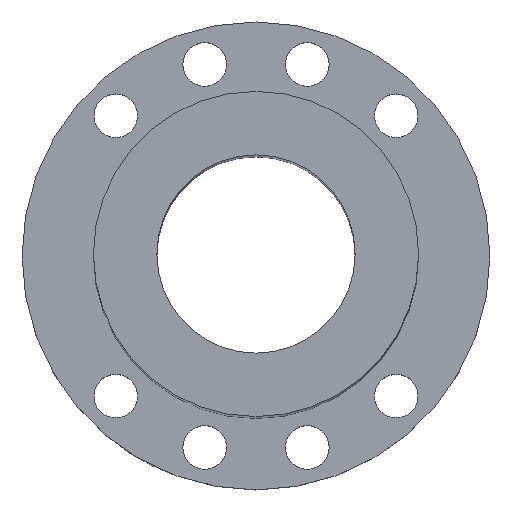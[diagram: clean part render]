
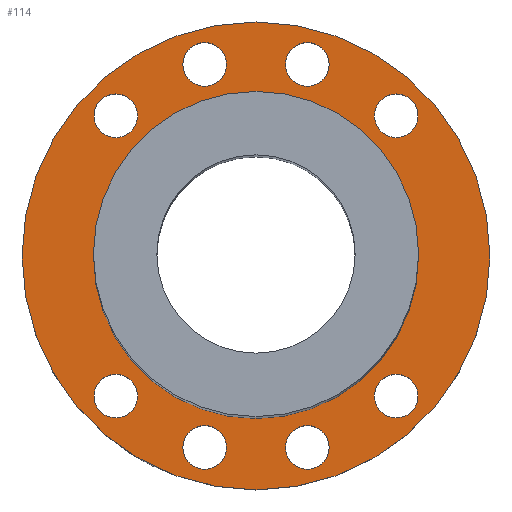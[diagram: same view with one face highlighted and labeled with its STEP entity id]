
A CAD part, top view. The second image highlights one B-rep face of the part: STEP entity #114.
In plain terms, the highlighted planar face has unit normal (0, 0, 1).
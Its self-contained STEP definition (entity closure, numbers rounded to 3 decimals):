
#99=PLANE('',#401);
#114=ADVANCED_FACE('',(#169,#170,#171,#172,#173,#174,#175,#176,#177,#178),
#99,.T.);
#169=FACE_BOUND('',#221,.T.);
#170=FACE_BOUND('',#222,.T.);
#171=FACE_BOUND('',#223,.T.);
#172=FACE_BOUND('',#224,.T.);
#173=FACE_BOUND('',#225,.T.);
#174=FACE_BOUND('',#226,.T.);
#175=FACE_BOUND('',#227,.T.);
#176=FACE_BOUND('',#228,.T.);
#177=FACE_BOUND('',#229,.T.);
#178=FACE_BOUND('',#230,.T.);
#221=EDGE_LOOP('',(#273));
#222=EDGE_LOOP('',(#274));
#223=EDGE_LOOP('',(#275));
#224=EDGE_LOOP('',(#276));
#225=EDGE_LOOP('',(#277));
#226=EDGE_LOOP('',(#278));
#227=EDGE_LOOP('',(#279));
#228=EDGE_LOOP('',(#280));
#229=EDGE_LOOP('',(#281));
#230=EDGE_LOOP('',(#282));
#273=ORIENTED_EDGE('',*,*,#316,.T.);
#274=ORIENTED_EDGE('',*,*,#337,.T.);
#275=ORIENTED_EDGE('',*,*,#336,.T.);
#276=ORIENTED_EDGE('',*,*,#335,.F.);
#277=ORIENTED_EDGE('',*,*,#318,.T.);
#278=ORIENTED_EDGE('',*,*,#334,.F.);
#279=ORIENTED_EDGE('',*,*,#333,.F.);
#280=ORIENTED_EDGE('',*,*,#332,.F.);
#281=ORIENTED_EDGE('',*,*,#331,.T.);
#282=ORIENTED_EDGE('',*,*,#338,.T.);
#290=VERTEX_POINT('',#495);
#292=VERTEX_POINT('',#557);
#305=VERTEX_POINT('',#644);
#306=VERTEX_POINT('',#647);
#307=VERTEX_POINT('',#650);
#308=VERTEX_POINT('',#653);
#309=VERTEX_POINT('',#656);
#310=VERTEX_POINT('',#659);
#311=VERTEX_POINT('',#662);
#312=VERTEX_POINT('',#665);
#316=EDGE_CURVE('',#290,#290,#342,.T.);
#318=EDGE_CURVE('',#292,#292,#343,.T.);
#331=EDGE_CURVE('',#305,#305,#355,.T.);
#332=EDGE_CURVE('',#306,#306,#356,.T.);
#333=EDGE_CURVE('',#307,#307,#357,.T.);
#334=EDGE_CURVE('',#308,#308,#358,.T.);
#335=EDGE_CURVE('',#309,#309,#359,.T.);
#336=EDGE_CURVE('',#310,#310,#360,.T.);
#337=EDGE_CURVE('',#311,#311,#361,.T.);
#338=EDGE_CURVE('',#312,#312,#362,.T.);
#342=CIRCLE('',#367,59.);
#343=CIRCLE('',#369,41.);
#355=CIRCLE('',#385,5.5);
#356=CIRCLE('',#387,5.5);
#357=CIRCLE('',#389,5.5);
#358=CIRCLE('',#391,5.5);
#359=CIRCLE('',#393,5.5);
#360=CIRCLE('',#395,5.5);
#361=CIRCLE('',#397,5.5);
#362=CIRCLE('',#399,5.5);
#367=AXIS2_PLACEMENT_3D('',#494,#411,#412);
#369=AXIS2_PLACEMENT_3D('',#556,#415,#416);
#385=AXIS2_PLACEMENT_3D('',#643,#447,#448);
#387=AXIS2_PLACEMENT_3D('',#646,#451,#452);
#389=AXIS2_PLACEMENT_3D('',#649,#455,#456);
#391=AXIS2_PLACEMENT_3D('',#652,#459,#460);
#393=AXIS2_PLACEMENT_3D('',#655,#463,#464);
#395=AXIS2_PLACEMENT_3D('',#658,#467,#468);
#397=AXIS2_PLACEMENT_3D('',#661,#471,#472);
#399=AXIS2_PLACEMENT_3D('',#664,#475,#476);
#401=AXIS2_PLACEMENT_3D('',#667,#479,#480);
#411=DIRECTION('',(0.,0.,1.));
#412=DIRECTION('',(1.,0.,0.));
#415=DIRECTION('',(0.,0.,-1.));
#416=DIRECTION('',(1.,0.,0.));
#447=DIRECTION('',(0.,0.,-1.));
#448=DIRECTION('',(1.,0.,0.));
#451=DIRECTION('',(0.,0.,1.));
#452=DIRECTION('',(1.,0.,0.));
#455=DIRECTION('',(0.,0.,1.));
#456=DIRECTION('',(-1.,0.,0.));
#459=DIRECTION('',(0.,0.,1.));
#460=DIRECTION('',(-1.,0.,0.));
#463=DIRECTION('',(0.,0.,1.));
#464=DIRECTION('',(1.,0.,0.));
#467=DIRECTION('',(0.,0.,-1.));
#468=DIRECTION('',(-1.,0.,0.));
#471=DIRECTION('',(0.,0.,-1.));
#472=DIRECTION('',(-1.,0.,0.));
#475=DIRECTION('',(0.,0.,-1.));
#476=DIRECTION('',(1.,0.,0.));
#479=DIRECTION('',(0.,0.,1.));
#480=DIRECTION('',(1.,0.,0.));
#494=CARTESIAN_POINT('',(0.,0.,16.));
#495=CARTESIAN_POINT('',(59.,0.,16.));
#556=CARTESIAN_POINT('',(0.,0.,16.));
#557=CARTESIAN_POINT('',(41.,0.,16.));
#643=CARTESIAN_POINT('',(-12.941,-48.296,16.));
#644=CARTESIAN_POINT('',(-7.441,-48.296,16.));
#646=CARTESIAN_POINT('',(-12.941,48.296,16.));
#647=CARTESIAN_POINT('',(-7.441,48.296,16.));
#649=CARTESIAN_POINT('',(12.941,-48.296,16.));
#650=CARTESIAN_POINT('',(7.441,-48.296,16.));
#652=CARTESIAN_POINT('',(35.355,-35.355,16.));
#653=CARTESIAN_POINT('',(29.855,-35.355,16.));
#655=CARTESIAN_POINT('',(-35.355,35.355,16.));
#656=CARTESIAN_POINT('',(-29.855,35.355,16.));
#658=CARTESIAN_POINT('',(35.355,35.355,16.));
#659=CARTESIAN_POINT('',(29.855,35.355,16.));
#661=CARTESIAN_POINT('',(12.941,48.296,16.));
#662=CARTESIAN_POINT('',(7.441,48.296,16.));
#664=CARTESIAN_POINT('',(-35.355,-35.355,16.));
#665=CARTESIAN_POINT('',(-29.855,-35.355,16.));
#667=CARTESIAN_POINT('',(6.47,24.148,16.));
